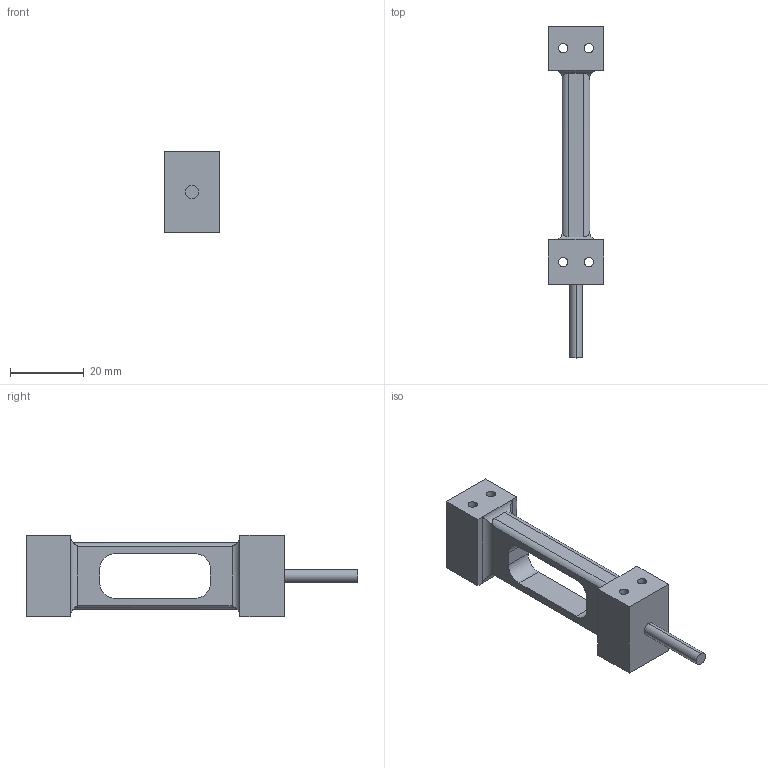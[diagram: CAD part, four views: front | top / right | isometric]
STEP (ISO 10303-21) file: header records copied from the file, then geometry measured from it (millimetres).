
FILE_DESCRIPTION (( 'STEP AP214' ), '1' );
FILE_NAME ('OBUG_MK2_SPACE_MODEL.STEP', '2025-02-04T16:00:32', ( '' ), ( '' ), 'SwSTEP 2.0', 'SolidWorks 2025', '' );
FILE_SCHEMA (( 'AUTOMOTIVE_DESIGN' ));
Length unit declared in the file: millimetre
Products named in the file (4): OBUG_POTTING; OBUG_WIRE; OBUG_MK2_SPACE_MODEL; 95251 OBUG MK2 BODY_SPACE MODEL
Assembly tree (4 placements, depth 2):
  OBUG_MK2_SPACE_MODEL
    95251 OBUG MK2 BODY_SPACE MODEL
    OBUG_WIRE
    OBUG_POTTING  x2
Bounding box: 15 x 90 x 22 mm (x, y, z)
Volume: 11285.5 mm3; surface area: 7523.3 mm2
Topology: 4 solids, 4 shells, 60 faces, 148 edges, 96 vertices
Faces by surface type: cylinder 32, plane 28
Entity records: 1909 total; most frequent: CARTESIAN_POINT 449, DIRECTION 286, ORIENTED_EDGE 272, EDGE_CURVE 136, AXIS2_PLACEMENT_3D 101, VERTEX_POINT 88, LINE 84, VECTOR 84
